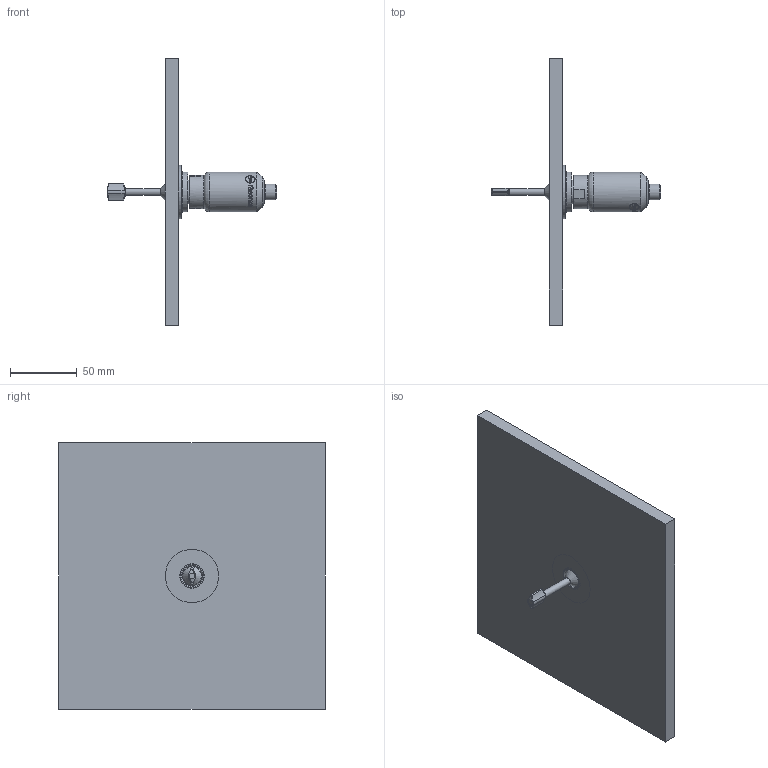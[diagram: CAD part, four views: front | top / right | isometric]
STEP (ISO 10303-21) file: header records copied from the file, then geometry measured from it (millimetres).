
FILE_DESCRIPTION(/* description */ ('Unknown'),/* implementation_level */ '2;1');
FILE_NAME(/* name */ 'Rheonics_SRD-X1-12G_HAW-12G-OTK2',/* time_stamp */ '2025-01-22T13:18:47-05:00',/* author */ ('Unknown'),/* organization */ ('Unknown'),/* preprocessor_version */ 'ST-DEVELOPER v16.7',/* originating_system */ 'Solid Edge',/* authorisation */ 'Unknown');
FILE_SCHEMA (('AUTOMOTIVE_DESIGN {1 0 10303 214 3 1 1}'));
Length unit declared in the file: millimetre
Products named in the file (5): Rheonics_SRD-X1-12G_HAW-12G-OTK2; TankWall; HAW-12G-OTK_Gen-2; G0.5-Oring; SRD-X1-12G
Assembly tree (4 placements, depth 2):
  Rheonics_SRD-X1-12G_HAW-12G-OTK2
    TankWall
    HAW-12G-OTK_Gen-2
    G0.5-Oring
    SRD-X1-12G
Bounding box: 127.35 x 200 x 200 mm (x, y, z)
Volume: 444221.1 mm3; surface area: 100905.8 mm2
Topology: 4 solids, 4 shells, 232 faces, 586 edges, 370 vertices
Faces by surface type: bspline 84, cylinder 57, plane 49, torus 17, cone 17, sphere 8
Full cylindrical faces by diameter (mm): 0.8 x8, 3.2 x1, 5.019 x1, 8 x1, 12 x2, 13.9 x1, 18 x1, 18.631 x1, 20.955 x1, 22 x1, 25 x1, 30 x2, 40 x2
Entity records: 10179 total; most frequent: CARTESIAN_POINT 5424, ORIENTED_EDGE 994, DIRECTION 680, EDGE_CURVE 497, VERTEX_POINT 342, FACE_BOUND 307, EDGE_LOOP 306, AXIS2_PLACEMENT_3D 264
